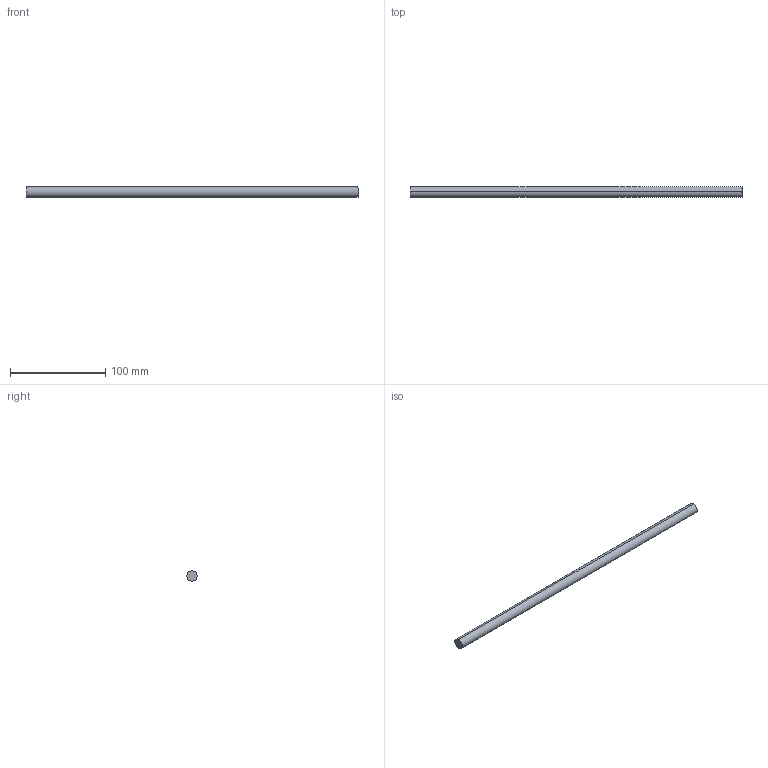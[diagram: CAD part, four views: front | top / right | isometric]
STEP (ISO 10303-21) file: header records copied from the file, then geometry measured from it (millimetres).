
FILE_DESCRIPTION (( 'STEP AP214' ), '1' );
FILE_NAME ('Querreling_2S-Rel_7102_KAB-450.step', '2010-09-22T15:05:51', ( 'grass' ), ( '' ), 'SwSTEP 2.0', 'SolidWorks 2010', '' );
FILE_SCHEMA (( 'AUTOMOTIVE_DESIGN' ));
Length unit declared in the file: millimetre
Products named in the file (1): Querreling_2S-Rel_7102_KAB-450
Bounding box: 349 x 11 x 11 mm (x, y, z)
Volume: 33166.6 mm3; surface area: 12250.6 mm2
Topology: 1 solids, 1 shells, 4 faces, 6 edges, 4 vertices
Faces by surface type: cylinder 2, plane 2
Entity records: 128 total; most frequent: DIRECTION 20, CARTESIAN_POINT 15, ORIENTED_EDGE 12, AXIS2_PLACEMENT_3D 9, EDGE_CURVE 6, VERTEX_POINT 4, EDGE_LOOP 4, FACE_OUTER_BOUND 4
